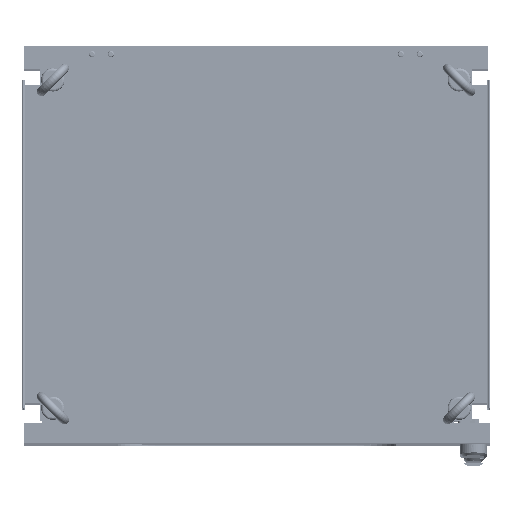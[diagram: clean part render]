
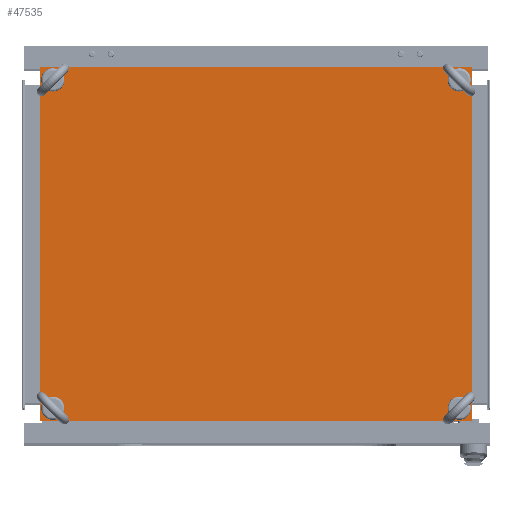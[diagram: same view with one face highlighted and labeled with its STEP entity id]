
A CAD part, top view. The second image highlights one B-rep face of the part: STEP entity #47535.
In plain terms, the highlighted planar face has unit normal (0, 0, 1).
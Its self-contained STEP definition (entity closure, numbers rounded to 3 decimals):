
#72=VERTEX_LOOP('',#33103);
#73=VERTEX_LOOP('',#33104);
#74=VERTEX_LOOP('',#33105);
#75=VERTEX_LOOP('',#33106);
#5427=LINE('',#76061,#10181);
#5428=LINE('',#76064,#10182);
#5429=LINE('',#76066,#10183);
#5430=LINE('',#76068,#10184);
#10181=VECTOR('',#62405,1000.);
#10182=VECTOR('',#62406,1000.);
#10183=VECTOR('',#62407,1000.);
#10184=VECTOR('',#62408,1000.);
#19752=ORIENTED_EDGE('',*,*,#28091,.F.);
#19753=ORIENTED_EDGE('',*,*,#28092,.F.);
#19754=ORIENTED_EDGE('',*,*,#28093,.F.);
#19755=ORIENTED_EDGE('',*,*,#28094,.F.);
#19756=ORIENTED_EDGE('',*,*,#28095,.F.);
#19757=ORIENTED_EDGE('',*,*,#28096,.F.);
#19758=ORIENTED_EDGE('',*,*,#28097,.F.);
#19759=ORIENTED_EDGE('',*,*,#28098,.F.);
#28091=EDGE_CURVE('',#33099,#33099,#35228,.T.);
#28092=EDGE_CURVE('',#33100,#33100,#35229,.T.);
#28093=EDGE_CURVE('',#33101,#33101,#35230,.T.);
#28094=EDGE_CURVE('',#33102,#33102,#35231,.T.);
#28095=EDGE_CURVE('',#33107,#33108,#5427,.T.);
#28096=EDGE_CURVE('',#33109,#33107,#5428,.T.);
#28097=EDGE_CURVE('',#33110,#33109,#5429,.T.);
#28098=EDGE_CURVE('',#33108,#33110,#5430,.T.);
#33099=VERTEX_POINT('',#76050);
#33100=VERTEX_POINT('',#76052);
#33101=VERTEX_POINT('',#76054);
#33102=VERTEX_POINT('',#76056);
#33103=VERTEX_POINT('',#76057);
#33104=VERTEX_POINT('',#76058);
#33105=VERTEX_POINT('',#76059);
#33106=VERTEX_POINT('',#76060);
#33107=VERTEX_POINT('',#76062);
#33108=VERTEX_POINT('',#76063);
#33109=VERTEX_POINT('',#76065);
#33110=VERTEX_POINT('',#76067);
#35228=CIRCLE('',#52656,6.5);
#35229=CIRCLE('',#52657,6.5);
#35230=CIRCLE('',#52658,6.5);
#35231=CIRCLE('',#52659,6.5);
#38583=EDGE_LOOP('',(#19752));
#38584=EDGE_LOOP('',(#19753));
#38585=EDGE_LOOP('',(#19754));
#38586=EDGE_LOOP('',(#19755));
#38587=EDGE_LOOP('',(#19756,#19757,#19758,#19759));
#42759=FACE_BOUND('',#38583,.T.);
#42760=FACE_BOUND('',#38584,.T.);
#42761=FACE_BOUND('',#38585,.T.);
#42762=FACE_BOUND('',#38586,.T.);
#42763=FACE_BOUND('',#72,.T.);
#42764=FACE_BOUND('',#73,.T.);
#42765=FACE_BOUND('',#74,.T.);
#42766=FACE_BOUND('',#75,.T.);
#42767=FACE_BOUND('',#38587,.T.);
#45537=PLANE('',#52655);
#47535=ADVANCED_FACE('',(#42759,#42760,#42761,#42762,#42763,#42764,#42765,
#42766,#42767),#45537,.F.);
#52655=AXIS2_PLACEMENT_3D('',#76048,#62395,#62396);
#52656=AXIS2_PLACEMENT_3D('',#76049,#62397,#62398);
#52657=AXIS2_PLACEMENT_3D('',#76051,#62399,#62400);
#52658=AXIS2_PLACEMENT_3D('',#76053,#62401,#62402);
#52659=AXIS2_PLACEMENT_3D('',#76055,#62403,#62404);
#62395=DIRECTION('',(0.,0.,-1.));
#62396=DIRECTION('',(-1.,0.,0.));
#62397=DIRECTION('',(0.,0.,1.));
#62398=DIRECTION('',(1.,0.,0.));
#62399=DIRECTION('',(0.,0.,1.));
#62400=DIRECTION('',(1.,0.,0.));
#62401=DIRECTION('',(0.,0.,1.));
#62402=DIRECTION('',(1.,0.,0.));
#62403=DIRECTION('',(0.,0.,1.));
#62404=DIRECTION('',(1.,0.,0.));
#62405=DIRECTION('',(0.,1.,0.));
#62406=DIRECTION('',(-1.,0.,0.));
#62407=DIRECTION('',(0.,-1.,0.));
#62408=DIRECTION('',(1.,0.,0.));
#76048=CARTESIAN_POINT('',(0.,0.,0.));
#76049=CARTESIAN_POINT('',(260.5,210.5,0.));
#76050=CARTESIAN_POINT('',(267.,210.5,0.));
#76051=CARTESIAN_POINT('',(-260.5,210.5,0.));
#76052=CARTESIAN_POINT('',(-254.,210.5,0.));
#76053=CARTESIAN_POINT('',(260.5,-210.5,0.));
#76054=CARTESIAN_POINT('',(267.,-210.5,0.));
#76055=CARTESIAN_POINT('',(-260.5,-210.5,0.));
#76056=CARTESIAN_POINT('',(-254.,-210.5,0.));
#76057=CARTESIAN_POINT('',(-274.2,-224.201,0.));
#76058=CARTESIAN_POINT('',(274.2,224.201,0.));
#76059=CARTESIAN_POINT('',(274.201,-224.201,0.));
#76060=CARTESIAN_POINT('',(-274.201,224.201,0.));
#76061=CARTESIAN_POINT('',(-277.,-227.,0.));
#76062=CARTESIAN_POINT('',(-277.,-227.,0.));
#76063=CARTESIAN_POINT('',(-277.,227.,0.));
#76064=CARTESIAN_POINT('',(277.,-227.,0.));
#76065=CARTESIAN_POINT('',(277.,-227.,0.));
#76066=CARTESIAN_POINT('',(277.,227.,0.));
#76067=CARTESIAN_POINT('',(277.,227.,0.));
#76068=CARTESIAN_POINT('',(-277.,227.,0.));
